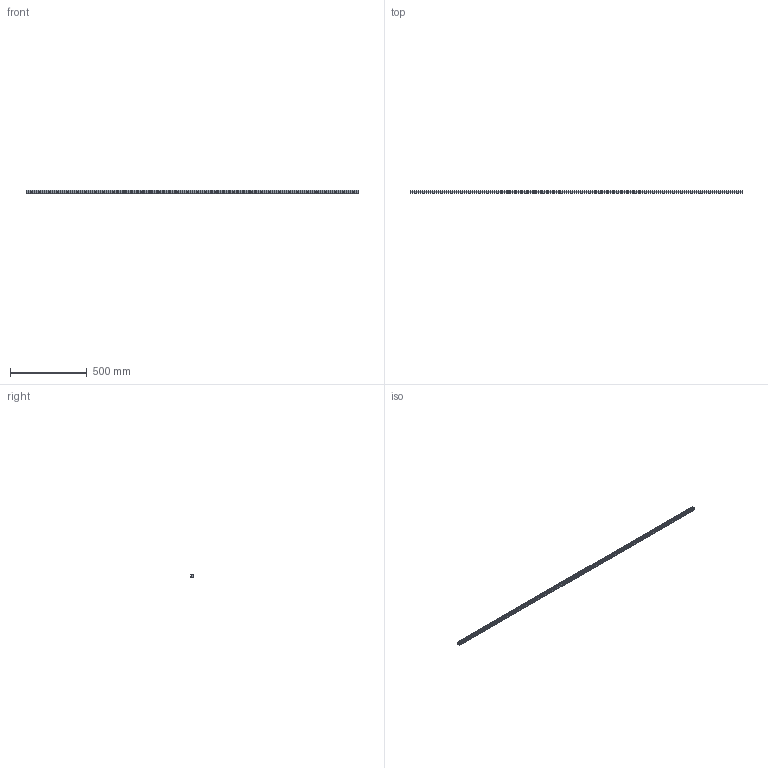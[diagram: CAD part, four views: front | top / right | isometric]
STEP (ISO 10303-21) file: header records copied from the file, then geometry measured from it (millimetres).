
FILE_DESCRIPTION (( 'STEP AP203' ), '1' );
FILE_NAME ('L1018.20R-2160.step', '2023-08-06T09:11:31', ( '' ), ( '' ), 'SwSTEP 2.0', 'SolidWorks 2019', '' );
FILE_SCHEMA (( 'CONFIG_CONTROL_DESIGN' ));
Length unit declared in the file: millimetre
Products named in the file (1): L1018.20R-2160
Bounding box: 2160 x 19.3 x 20 mm (x, y, z)
Volume: 684997.1 mm3; surface area: 182935.2 mm2
Topology: 1 solids, 1 shells, 353 faces, 801 edges, 450 vertices
Faces by surface type: cylinder 147, cone 144, plane 62
Entity records: 9422 total; most frequent: DIRECTION 1803, CARTESIAN_POINT 1533, ORIENTED_EDGE 1458, EDGE_CURVE 729, AXIS2_PLACEMENT_3D 720, VERTEX_POINT 450, EDGE_LOOP 425, CIRCLE 366
